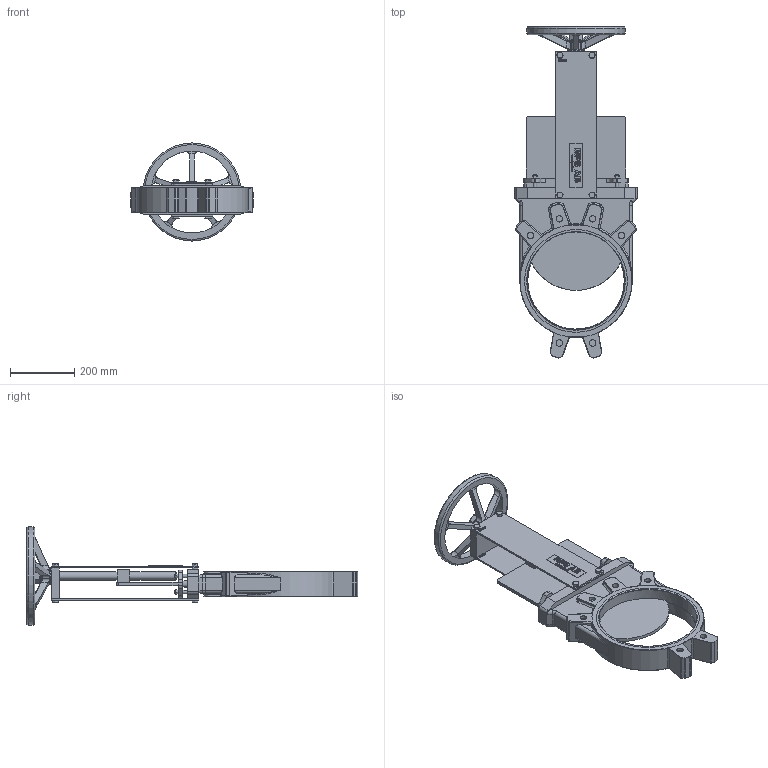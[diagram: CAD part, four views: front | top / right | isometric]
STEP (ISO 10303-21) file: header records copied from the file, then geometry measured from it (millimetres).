
FILE_DESCRIPTION((''),'2;1');
FILE_NAME('Z:\Kunder\BPS\BPS Produkter\BPS 2015\DN 300\Ritningar\BPS 2015300.stp','2012-12-28T10:57:27',('James'),(''),'Autodesk Inventor 2013','Autodesk Inventor 2013','');
FILE_SCHEMA(('AUTOMOTIVE_DESIGN { 1 2 10303 214 0 1 1 1 }'));
Length unit declared in the file: millimetre
Products named in the file (2): BPS 2015300 (SubstituteLevelofDetail1); BPS 2015300
Assembly tree (1 placements, depth 2):
  BPS 2015300 (SubstituteLevelofDetail1)
    BPS 2015300
Bounding box: 380 x 1032.76 x 305 mm (x, y, z)
Volume: 9393352.9 mm3; surface area: 1088107.3 mm2
Topology: 2 solids, 14 shells, 1379 faces, 3357 edges, 2104 vertices
Faces by surface type: plane 620, cylinder 307, bspline 280, torus 83, cone 53, sphere 36
Full cylindrical faces by diameter (mm): 8 x2, 10 x12, 12 x8, 13 x8, 16.63 x8, 20 x14, 25 x3, 50 x1, 255 x1, 300 x1, 305 x2
Entity records: 49151 total; most frequent: CARTESIAN_POINT 17415, ORIENTED_EDGE 6500, DIRECTION 5639, EDGE_CURVE 3250, VERTEX_POINT 2080, AXIS2_PLACEMENT_3D 1957, VECTOR 1725, LINE 1725
